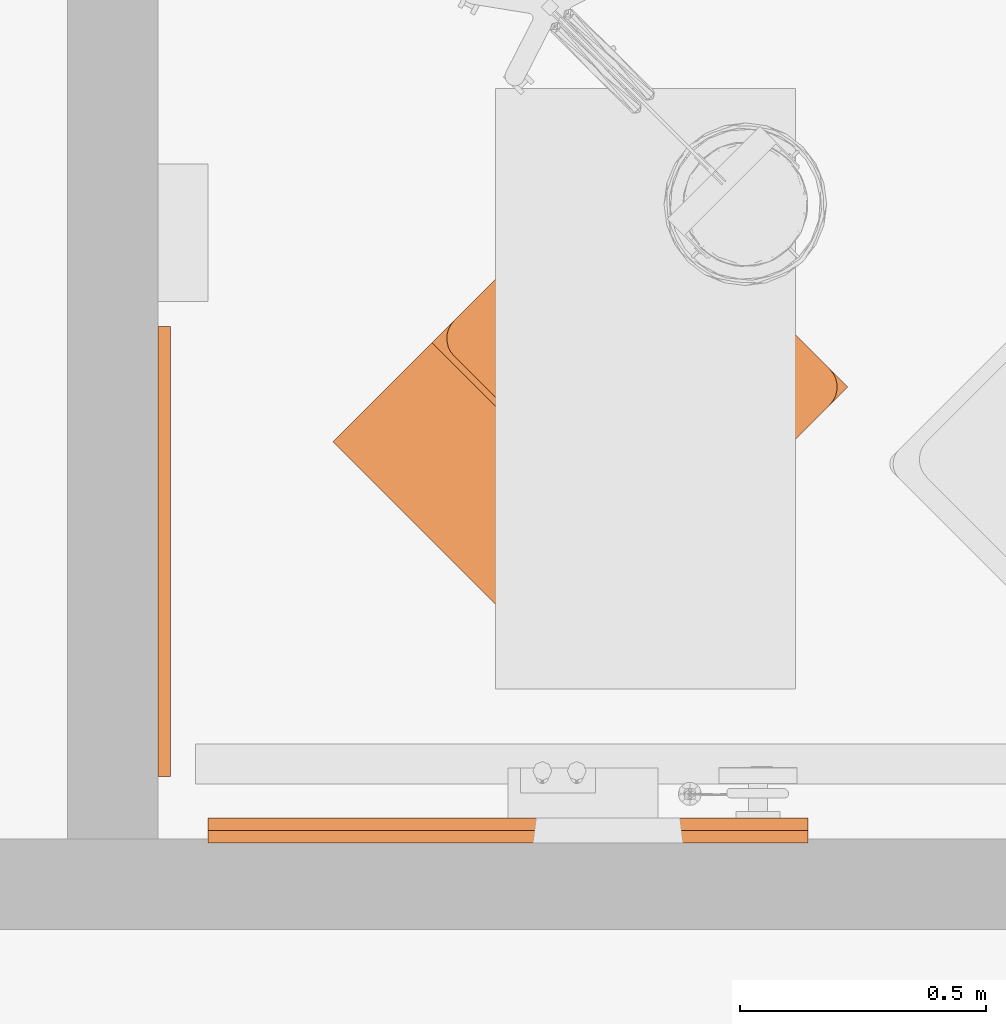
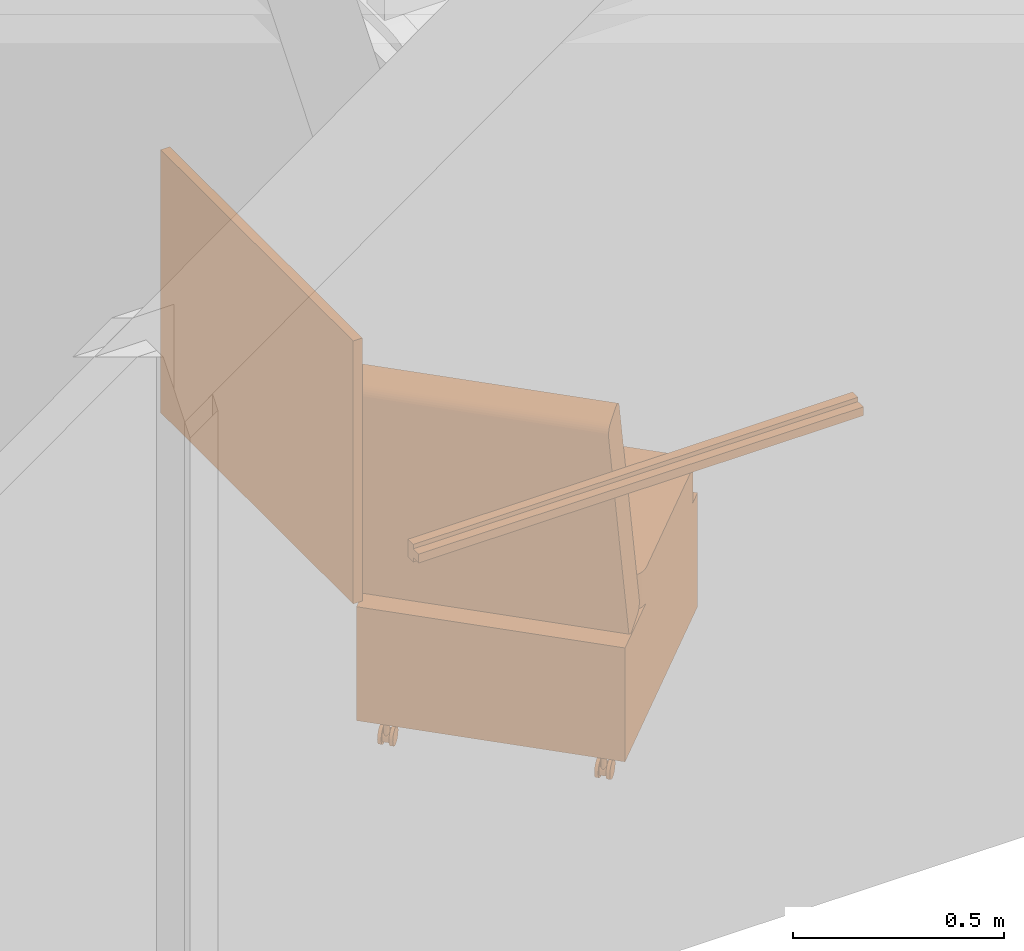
# One storey, part 18 of 142: 3 proxies.
"""IFC2X3 building model written with IfcOpenShell, lengths in feet."""

from ifc_helpers import new_model, entity, si_unit, converted_unit, derived_unit, direction, frame, frame_2d, origin, origin_2d_with_axis, place, context, subcontext, project, spatial, polyline, circle_curve, parameter, trimmed, segment, composite_curve, rectangle, circle, outline, extrude, source, transform, mapped, type_object, type_shapes, element, save


model = new_model("IFC2X3")

# Units and contexts
model_context = context("Model", 3, precision=0.0001, world=origin(), true_north=direction((6.12303176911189e-17, 1.0)))
body_context = subcontext(model_context, "Body", "Model", "MODEL_VIEW")
ifc_project = project(units=[converted_unit("LENGTHUNIT", "FOOT", entity("IfcRatioMeasure", 0.3048), si_unit("LENGTHUNIT", "METRE"), dimensions=[1, 0, 0, 0, 0, 0, 0]), converted_unit("AREAUNIT", "SQUARE FOOT", entity("IfcRatioMeasure", 0.09290304), si_unit("AREAUNIT", "SQUARE_METRE"), dimensions=[2, 0, 0, 0, 0, 0, 0]), converted_unit("VOLUMEUNIT", "CUBIC FOOT", entity("IfcRatioMeasure", 0.028316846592), si_unit("VOLUMEUNIT", "CUBIC_METRE"), dimensions=[3, 0, 0, 0, 0, 0, 0]), converted_unit("PLANEANGLEUNIT", "DEGREE", entity("IfcRatioMeasure", 0.0174532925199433), si_unit("PLANEANGLEUNIT", "RADIAN"), dimensions=[0, 0, 0, 0, 0, 0, 0]), si_unit("MASSUNIT", "GRAM", prefix="KILO"), derived_unit("MASSDENSITYUNIT", [(si_unit("MASSUNIT", "GRAM", prefix="KILO"), 1), (si_unit("LENGTHUNIT", "METRE"), -3)]), si_unit("TIMEUNIT", "SECOND"), si_unit("FREQUENCYUNIT", "HERTZ"), si_unit("THERMODYNAMICTEMPERATUREUNIT", "DEGREE_CELSIUS"), derived_unit("THERMALTRANSMITTANCEUNIT", [(si_unit("MASSUNIT", "GRAM", prefix="KILO"), 1), (si_unit("THERMODYNAMICTEMPERATUREUNIT", "KELVIN"), -1), (si_unit("TIMEUNIT", "SECOND"), -3)]), derived_unit("VOLUMETRICFLOWRATEUNIT", [(si_unit("LENGTHUNIT", "METRE"), 3), (si_unit("TIMEUNIT", "SECOND"), -1)]), si_unit("ELECTRICCURRENTUNIT", "AMPERE"), si_unit("ELECTRICVOLTAGEUNIT", "VOLT"), si_unit("POWERUNIT", "WATT"), si_unit("FORCEUNIT", "NEWTON"), si_unit("ILLUMINANCEUNIT", "LUX"), si_unit("LUMINOUSFLUXUNIT", "LUMEN"), si_unit("LUMINOUSINTENSITYUNIT", "CANDELA"), derived_unit("USERDEFINED", [(si_unit("MASSUNIT", "GRAM", prefix="KILO"), -1), (si_unit("LENGTHUNIT", "METRE"), -2), (si_unit("TIMEUNIT", "SECOND"), 3), (si_unit("LUMINOUSFLUXUNIT", "LUMEN"), 1)]), derived_unit("LINEARVELOCITYUNIT", [(si_unit("LENGTHUNIT", "METRE"), 1), (si_unit("TIMEUNIT", "SECOND"), -1)]), si_unit("PRESSUREUNIT", "PASCAL"), derived_unit("USERDEFINED", [(si_unit("LENGTHUNIT", "METRE"), -2), (si_unit("MASSUNIT", "GRAM", prefix="KILO"), 1), (si_unit("TIMEUNIT", "SECOND"), -2)])], contexts=[model_context])

# Site, building, storey, space
site_placement = place(None, origin())
site = spatial("IfcSite", under=ifc_project, at=site_placement, Name="Default", CompositionType="ELEMENT")
building_placement = place(site_placement, origin())
building = spatial("IfcBuilding", under=site, at=building_placement, Name="OUTPATIENT / PACT CLINIC (Ch. 265)", CompositionType="ELEMENT")
storey_placement = place(building_placement, origin())
storey = spatial("IfcBuildingStorey", under=building, at=storey_placement, Name="LEVEL 1", CompositionType="ELEMENT", Elevation=0.0)
space_placement = place(storey_placement, origin())
space = spatial("IfcSpace", under=storey, at=space_placement, Name="EXW01", CompositionType="ELEMENT", InteriorOrExteriorSpace="INTERNAL")

# Proxies
building_element_proxy_type_1 = type_object("IfcBuildingElementProxyType", Name="F3025 - Board, Bulletin, Wood Framed", PredefinedType="NOTDEFINED")
shared_shape_1 = source(origin(), body_context, "Body", "SweptSolid", [
    extrude(rectangle(XDim=0.0416666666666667, YDim=2.74999999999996, at=origin_2d_with_axis()), frame((0.0, -0.020833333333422, 0.124999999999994), z_axis=(0.0, 0.0, 1.0), x_axis=(0.0, 1.0, 0.0)), (0.0, 0.0, 1.0), 2.25000000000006),
    extrude(outline(polyline([(-1.49999999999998, -1.25), (1.49999999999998, -1.25), (1.49999999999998, 1.25), (-1.49999999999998, 1.25), (-1.49999999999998, -1.25)]), holes=[polyline([(-1.37499999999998, -1.125), (-1.37499999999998, 1.12500000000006), (1.37499999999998, 1.12500000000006), (1.37499999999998, -1.125), (-1.37499999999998, -1.125)])]), frame((0.0, -0.0833333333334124, 1.25), z_axis=(0.0, 1.0, 0.0), x_axis=(-1.0, 0.0, 0.0)), (0.0, 0.0, 1.0), 0.0833333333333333),
])
type_shapes(building_element_proxy_type_1, [shared_shape_1])
proxy_1_placement = place(space_placement, frame((435.254977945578, -950.732989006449, 3.5), z_axis=(0.0, 0.0, 1.0), x_axis=(0.0, 1.0, 0.0)))
element("IfcBuildingElementProxy", 1, at=proxy_1_placement, inside=space, type_object=building_element_proxy_type_1, Name="F3025 - Board, Bulletin, Wood Framed1:F3025 - Board, Bulletin, Wood Framed", ObjectType="F3025 - Board, Bulletin, Wood Framed", context=body_context, shape_type="MappedRepresentation", body=[
    mapped(shared_shape_1, transform((0.0, 0.0, 0.0), scale=1.0)),
])
building_element_proxy_type_2 = type_object("IfcBuildingElementProxyType", Name="Exam/Treatment Table with Cabinet", PredefinedType="NOTDEFINED")
shared_shape_2 = source(origin(), body_context, "Body", "SweptSolid", [
    extrude(circle(Radius=0.0833333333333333, at=frame_2d((0.0, -1.38777878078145e-16), x_axis=(1.0, 0.0))), frame((-0.843750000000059, 0.432291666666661, 0.0833333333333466), z_axis=(1.0, 0.0, 0.0), x_axis=(0.0, 1.0, 0.0)), (0.0, 0.0, 1.0), 0.0312500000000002),
    extrude(circle(Radius=0.0260416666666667, at=frame_2d((0.0, -5.55111512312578e-17), x_axis=(1.0, 0.0))), frame((-0.87500000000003, 0.463541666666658, 0.0801325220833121), z_axis=(0.0, 0.0, 1.0), x_axis=(-1.0, 0.0, 0.0)), (0.0, 0.0, 1.0), 0.211534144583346),
    extrude(circle(Radius=0.0625, at=frame_2d((0.0, -2.77555756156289e-16), x_axis=(1.0, 0.0))), frame((-0.90625000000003, 0.432291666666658, 0.0833333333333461), z_axis=(1.0, 0.0, 0.0), x_axis=(0.0, -1.0, 0.0)), (0.0, 0.0, 1.0), 0.0625),
    extrude(circle(Radius=0.0833333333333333, at=frame_2d((0.0, -1.38777878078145e-16), x_axis=(1.0, 0.0))), frame((-0.93750000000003, 0.432291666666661, 0.0833333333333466), z_axis=(1.0, 0.0, 0.0), x_axis=(0.0, 1.0, 0.0)), (0.0, 0.0, 1.0), 0.0312500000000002),
    extrude(circle(Radius=0.0833333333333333, at=frame_2d((0.0, -3.7470027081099e-16), x_axis=(1.0, 0.0))), frame((0.81250000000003, 0.432291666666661, 0.083333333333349), z_axis=(1.0, 0.0, 0.0), x_axis=(0.0, 1.0, 0.0)), (0.0, 0.0, 1.0), 0.0312500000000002),
    extrude(circle(Radius=0.0260416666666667, at=frame_2d((0.0, -5.55111512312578e-17), x_axis=(1.0, 0.0))), frame((0.875000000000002, 0.463541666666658, 0.0801325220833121)), (0.0, 0.0, 1.0), 0.211534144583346),
    extrude(circle(Radius=0.0625, at=frame_2d((0.0, -1.11022302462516e-16), x_axis=(1.0, 0.0))), frame((0.843750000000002, 0.432291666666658, 0.0833333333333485), z_axis=(1.0, 0.0, 0.0), x_axis=(0.0, -1.0, 0.0)), (0.0, 0.0, 1.0), 0.0625),
    extrude(circle(Radius=0.0833333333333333, at=frame_2d((0.0, -3.7470027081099e-16), x_axis=(1.0, 0.0))), frame((0.906250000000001, 0.432291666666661, 0.083333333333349), z_axis=(1.0, 0.0, 0.0), x_axis=(0.0, 1.0, 0.0)), (0.0, 0.0, 1.0), 0.0312500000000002),
    extrude(circle(Radius=0.0833333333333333, at=frame_2d((0.0, -1.38777878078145e-16), x_axis=(1.0, 0.0))), frame((-0.843750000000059, -1.41145833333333, 0.0833333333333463), z_axis=(1.0, 0.0, 0.0), x_axis=(0.0, -1.0, 0.0)), (0.0, 0.0, 1.0), 0.0312500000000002),
    extrude(circle(Radius=0.0260416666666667, at=origin_2d_with_axis()), frame((-0.87500000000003, -1.44270833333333, 0.0801325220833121), z_axis=(0.0, 0.0, 1.0), x_axis=(-1.0, 0.0, 0.0)), (0.0, 0.0, 1.0), 0.211534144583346),
    extrude(circle(Radius=0.0625, at=frame_2d((0.0, -2.77555756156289e-16), x_axis=(1.0, 0.0))), frame((-0.90625000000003, -1.41145833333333, 0.0833333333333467), z_axis=(1.0, 0.0, 0.0), x_axis=(0.0, 1.0, 0.0)), (0.0, 0.0, 1.0), 0.0625),
    extrude(circle(Radius=0.0833333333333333, at=frame_2d((0.0, -1.38777878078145e-16), x_axis=(1.0, 0.0))), frame((-0.93750000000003, -1.41145833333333, 0.0833333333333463), z_axis=(1.0, 0.0, 0.0), x_axis=(0.0, -1.0, 0.0)), (0.0, 0.0, 1.0), 0.0312500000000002),
    extrude(circle(Radius=0.0833333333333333, at=frame_2d((0.0, -3.7470027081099e-16), x_axis=(1.0, 0.0))), frame((0.81250000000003, -1.41145833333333, 0.0833333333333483), z_axis=(1.0, 0.0, 0.0), x_axis=(0.0, -1.0, 0.0)), (0.0, 0.0, 1.0), 0.0312500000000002),
    extrude(circle(Radius=0.0260416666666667, at=origin_2d_with_axis()), frame((0.875000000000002, -1.44270833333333, 0.0801325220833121)), (0.0, 0.0, 1.0), 0.211534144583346),
    extrude(circle(Radius=0.0625, at=frame_2d((0.0, -1.11022302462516e-16), x_axis=(1.0, 0.0))), frame((0.843750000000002, -1.41145833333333, 0.0833333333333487), z_axis=(1.0, 0.0, 0.0), x_axis=(0.0, 1.0, 0.0)), (0.0, 0.0, 1.0), 0.0625),
    extrude(circle(Radius=0.0833333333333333, at=frame_2d((0.0, -3.7470027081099e-16), x_axis=(1.0, 0.0))), frame((0.906250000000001, -1.41145833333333, 0.0833333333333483), z_axis=(1.0, 0.0, 0.0), x_axis=(0.0, -1.0, 0.0)), (0.0, 0.0, 1.0), 0.0312500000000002),
    extrude(rectangle(XDim=2.1666666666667, YDim=2.18316882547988, at=origin_2d_with_axis()), frame((0.0, -0.491748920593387, 0.291666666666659), z_axis=(0.0, 0.0, 1.0), x_axis=(-1.0, 0.0, 0.0)), (0.0, 0.0, 1.0), 1.08333333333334),
    extrude(outline(composite_curve([segment(trimmed(circle_curve(frame_2d((-0.221258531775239, -1.14772335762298), x_axis=(1.0, 0.0)), 0.0833333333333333), [parameter(255.0)], [parameter(345.0)], True, "PARAMETER"), True, "CONTINUOUS"), segment(polyline([(-0.140764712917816, -1.16929161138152), (0.462739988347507, 1.08301859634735)]), True, "CONTINUOUS"), segment(trimmed(circle_curve(frame_2d((0.382246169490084, 1.10458685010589), x_axis=(1.0, 0.0)), 0.0833333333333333), [parameter(345.000000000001)], [parameter(75.0000000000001)], True, "PARAMETER"), True, "CONTINUOUS"), segment(polyline([(0.403814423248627, 1.18508066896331), (0.242826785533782, 1.2282171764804)]), True, "CONTINUOUS"), segment(trimmed(circle_curve(frame_2d((0.221258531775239, 1.14772335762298), x_axis=(1.0, 0.0)), 0.0833333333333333), [parameter(74.9999999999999)], [parameter(165.0)], True, "PARAMETER"), True, "CONTINUOUS"), segment(polyline([(0.140764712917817, 1.16929161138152), (-0.462739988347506, -1.08301859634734)]), True, "CONTINUOUS"), segment(trimmed(circle_curve(frame_2d((-0.382246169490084, -1.10458685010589), x_axis=(1.0, 0.0)), 0.0833333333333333), [parameter(165.0)], [parameter(255.0)], True, "PARAMETER"), True, "CONTINUOUS"), segment(polyline([(-0.403814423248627, -1.18508066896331), (-0.242826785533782, -1.2282171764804)]), True, "CONTINUOUS")], self_intersect=False)), frame((-1.08333333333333, 0.632933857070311, 2.62668441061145), z_axis=(1.0, 0.0, 0.0), x_axis=(0.0, 1.0, 0.0)), (0.0, 0.0, 1.0), 2.16666666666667),
    extrude(outline(composite_curve([segment(polyline([(-0.916666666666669, -0.854166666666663), (0.91666666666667, -0.854166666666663)]), True, "CONTINUOUS"), segment(trimmed(circle_curve(frame_2d((0.916666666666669, -0.687499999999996), x_axis=(-1.0, 0.0)), 0.166666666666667), [parameter(90.0000000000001)], [parameter(180.0)], True, "PARAMETER"), True, "CONTINUOUS"), segment(polyline([(1.08333333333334, -0.687499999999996), (1.08333333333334, 0.687499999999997)]), True, "CONTINUOUS"), segment(trimmed(circle_curve(frame_2d((0.916666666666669, 0.687499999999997), x_axis=(-1.0, 0.0)), 0.166666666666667), [parameter(180.0)], [parameter(270.0)], True, "PARAMETER"), True, "CONTINUOUS"), segment(polyline([(0.916666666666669, 0.854166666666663), (-0.91666666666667, 0.854166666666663)]), True, "CONTINUOUS"), segment(trimmed(circle_curve(frame_2d((-0.916666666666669, 0.687499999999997), x_axis=(-1.0, 0.0)), 0.166666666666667), [parameter(270.0)], [parameter(0.0)], True, "PARAMETER"), True, "CONTINUOUS"), segment(polyline([(-1.08333333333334, 0.687499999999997), (-1.08333333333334, -0.687499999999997)]), True, "CONTINUOUS"), segment(trimmed(circle_curve(frame_2d((-0.916666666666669, -0.687499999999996), x_axis=(-1.0, 0.0)), 0.166666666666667), [parameter(0.0)], [parameter(90.0000000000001)], True, "PARAMETER"), True, "CONTINUOUS")], self_intersect=False)), frame((0.0, -0.729166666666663, 1.375), z_axis=(0.0, 0.0, 1.0), x_axis=(-1.0, 0.0, 0.0)), (0.0, 0.0, 1.0), 0.333333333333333),
])
type_shapes(building_element_proxy_type_2, [shared_shape_2])
proxy_2_placement = place(space_placement, frame((437.965553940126, -949.9911630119, 0.0), z_axis=(0.0, 0.0, 1.0), x_axis=(-0.707106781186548, 0.707106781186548, 0.0)))
element("IfcBuildingElementProxy", 2, at=proxy_2_placement, inside=space, type_object=building_element_proxy_type_2, Name="M9025 - Exam Table1:Exam/Treatment Table with Cabinet", ObjectType="Exam/Treatment Table with Cabinet", context=body_context, shape_type="MappedRepresentation", body=[
    mapped(shared_shape_2, transform((0.0, 0.0, 0.0), scale=1.0)),
])
building_element_proxy_type_3 = type_object("IfcBuildingElementProxyType", Name="A1132 - Rail, Accessory Mounting", PredefinedType="NOTDEFINED")
shared_shape_3 = source(origin(), body_context, "Body", "SweptSolid", [
    extrude(outline(polyline([(0.0416666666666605, 0.0), (0.0833333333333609, 0.0), (0.083333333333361, 0.0833333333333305), (-0.0833333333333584, 0.0833333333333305), (-0.0833333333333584, 0.0), (-0.0416666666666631, 0.0), (-0.0416666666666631, -0.0833333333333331), (0.0416666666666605, -0.0833333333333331), (0.0416666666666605, 0.0)])), frame((-2.0, -0.0833333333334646, 0.0833333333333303), z_axis=(1.0, 0.0, 0.0), x_axis=(0.0, 0.0, 1.0)), (0.0, 0.0, 1.0), 4.0),
])
type_shapes(building_element_proxy_type_3, [shared_shape_3])
proxy_3_placement = place(space_placement, frame((437.588311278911, -952.675697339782, 4.0), z_axis=(0.0, 0.0, 1.0), x_axis=(-1.0, 0.0, 0.0)))
element("IfcBuildingElementProxy", 3, at=proxy_3_placement, inside=space, type_object=building_element_proxy_type_3, Name="A1132 - Rail, Accessory Mounting:A1132 - Rail, Accessory Mounting", ObjectType="A1132 - Rail, Accessory Mounting", context=body_context, shape_type="MappedRepresentation", body=[
    mapped(shared_shape_3, transform((0.0, 0.0, 0.0), scale=1.0)),
])

save(model, "model.ifc")
